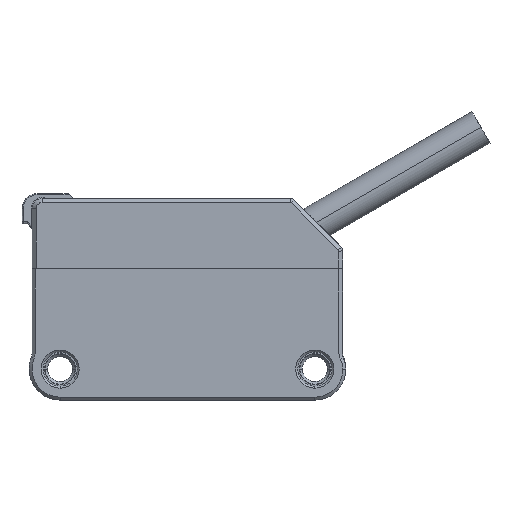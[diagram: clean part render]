
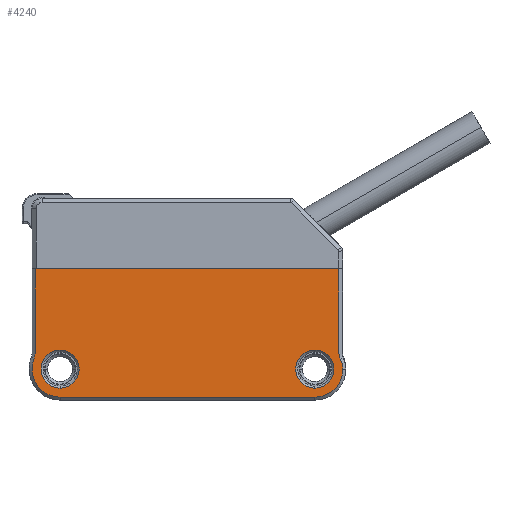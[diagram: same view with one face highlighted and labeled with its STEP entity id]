
A CAD part, front view. The second image highlights one B-rep face of the part: STEP entity #4240.
In plain terms, the highlighted planar face has unit normal (0, -1, 0).
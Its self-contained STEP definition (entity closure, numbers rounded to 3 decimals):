
#932=DIRECTION('',(-1.,0.,0.));
#933=VECTOR('',#932,30.31);
#934=CARTESIAN_POINT('',(27.21,-6.,0.2));
#935=LINE('',#934,#933);
#1050=DIRECTION('',(0.,0.,-1.));
#1051=VECTOR('',#1050,8.461);
#1052=CARTESIAN_POINT('',(-3.1,-6.,0.2));
#1053=LINE('',#1052,#1051);
#1058=CARTESIAN_POINT('',(24.8,-6.,-9.8));
#1059=DIRECTION('',(0.,1.,0.));
#1060=DIRECTION('',(1.,0.,-0.001));
#1061=AXIS2_PLACEMENT_3D('',#1058,#1059,#1060);
#1063=CARTESIAN_POINT('',(-0.6,-6.,-9.8));
#1064=DIRECTION('',(0.,1.,0.));
#1065=DIRECTION('',(0.,0.,-1.));
#1066=AXIS2_PLACEMENT_3D('',#1063,#1064,#1065);
#1068=CARTESIAN_POINT('',(-4.4,-6.,-8.261));
#1069=DIRECTION('',(0.,-1.,0.));
#1070=DIRECTION('',(0.927,0.,-0.375));
#1071=AXIS2_PLACEMENT_3D('',#1068,#1069,#1070);
#1073=CARTESIAN_POINT('',(-0.6,-6.,-9.8));
#1074=DIRECTION('',(0.,-1.,0.));
#1075=DIRECTION('',(0.,0.,-1.));
#1076=AXIS2_PLACEMENT_3D('',#1073,#1074,#1075);
#1078=CARTESIAN_POINT('',(-0.6,-6.,-9.8));
#1079=DIRECTION('',(0.,-1.,0.));
#1080=DIRECTION('',(0.,0.,1.));
#1081=AXIS2_PLACEMENT_3D('',#1078,#1079,#1080);
#1083=CARTESIAN_POINT('',(24.8,-6.,-9.8));
#1084=DIRECTION('',(0.,-1.,0.));
#1085=DIRECTION('',(0.,0.,-1.));
#1086=AXIS2_PLACEMENT_3D('',#1083,#1084,#1085);
#1088=CARTESIAN_POINT('',(24.8,-6.,-9.8));
#1089=DIRECTION('',(0.,-1.,0.));
#1090=DIRECTION('',(0.,0.,1.));
#1091=AXIS2_PLACEMENT_3D('',#1088,#1089,#1090);
#1097=DIRECTION('',(0.,0.,1.));
#1098=VECTOR('',#1097,8.449);
#1099=CARTESIAN_POINT('',(27.21,-6.,
-8.249));
#1100=LINE('',#1099,#1098);
#1279=DIRECTION('',(1.,0.,0.));
#1280=VECTOR('',#1279,25.4);
#1281=CARTESIAN_POINT('',(-0.6,-6.,
-12.6));
#1282=LINE('',#1281,#1280);
#1292=CARTESIAN_POINT('',(27.6,-6.,
-9.804));
#1293=CARTESIAN_POINT('',(27.597,-6.,
-9.692));
#1294=CARTESIAN_POINT('',(27.574,-6.,
-9.472));
#1295=CARTESIAN_POINT('',(27.491,-6.,
-9.147));
#1296=CARTESIAN_POINT('',(27.405,-6.,
-8.943));
#1297=CARTESIAN_POINT('',(27.354,-6.,
-8.844));
#1303=CARTESIAN_POINT('',(27.354,-6.,
-8.844));
#1304=CARTESIAN_POINT('',(27.323,-6.,
-8.782));
#1305=CARTESIAN_POINT('',(27.27,-6.,
-8.656));
#1306=CARTESIAN_POINT('',(27.221,-6.,
-8.454));
#1307=CARTESIAN_POINT('',(27.21,-6.,
-8.318));
#1308=CARTESIAN_POINT('',(27.21,-6.,
-8.249));
#2326=CARTESIAN_POINT('',(27.6,-6.,
-9.804));
#2327=CARTESIAN_POINT('',(24.8,-6.,-12.6));
#2328=VERTEX_POINT('',#2326);
#2329=VERTEX_POINT('',#2327);
#2330=CARTESIAN_POINT('',(27.21,-6.,
-8.249));
#2331=CARTESIAN_POINT('',(27.21,-6.,0.2));
#2332=VERTEX_POINT('',#2330);
#2333=VERTEX_POINT('',#2331);
#2334=VERTEX_POINT('',#1303);
#2335=CARTESIAN_POINT('',(-0.6,-6.,
-12.6));
#2336=VERTEX_POINT('',#2335);
#2337=CARTESIAN_POINT('',(-3.195,-6.,
-8.749));
#2338=VERTEX_POINT('',#2337);
#2339=CARTESIAN_POINT('',(-3.1,-6.,-8.261));
#2340=VERTEX_POINT('',#2339);
#2341=CARTESIAN_POINT('',(-3.1,-6.,0.2));
#2342=VERTEX_POINT('',#2341);
#2343=CARTESIAN_POINT('',(-0.6,-6.,-11.7));
#2344=CARTESIAN_POINT('',(-0.6,-6.,-7.9));
#2345=VERTEX_POINT('',#2343);
#2346=VERTEX_POINT('',#2344);
#2347=CARTESIAN_POINT('',(24.8,-6.,-11.7));
#2348=CARTESIAN_POINT('',(24.8,-6.,-7.9));
#2349=VERTEX_POINT('',#2347);
#2350=VERTEX_POINT('',#2348);
#4205=CARTESIAN_POINT('',(12.1,-6.,-6.2));
#4206=DIRECTION('',(0.,1.,0.));
#4207=DIRECTION('',(1.,0.,0.));
#4208=AXIS2_PLACEMENT_3D('',#4205,#4206,#4207);
#4209=PLANE('',#4208);
#4211=ORIENTED_EDGE('',*,*,#4210,.F.);
#4213=ORIENTED_EDGE('',*,*,#4212,.F.);
#4215=ORIENTED_EDGE('',*,*,#4214,.F.);
#4217=ORIENTED_EDGE('',*,*,#4216,.T.);
#4219=ORIENTED_EDGE('',*,*,#4218,.F.);
#4221=ORIENTED_EDGE('',*,*,#4220,.T.);
#4223=ORIENTED_EDGE('',*,*,#4222,.T.);
#4224=ORIENTED_EDGE('',*,*,#4197,.F.);
#4225=ORIENTED_EDGE('',*,*,#4079,.F.);
#4226=EDGE_LOOP('',(#4211,#4213,#4215,#4217,#4219,#4221,#4223,#4224,#4225));
#4227=FACE_OUTER_BOUND('',#4226,.F.);
#4229=ORIENTED_EDGE('',*,*,#4228,.T.);
#4231=ORIENTED_EDGE('',*,*,#4230,.T.);
#4232=EDGE_LOOP('',(#4229,#4231));
#4233=FACE_BOUND('',#4232,.F.);
#4235=ORIENTED_EDGE('',*,*,#4234,.T.);
#4237=ORIENTED_EDGE('',*,*,#4236,.T.);
#4238=EDGE_LOOP('',(#4235,#4237));
#4239=FACE_BOUND('',#4238,.F.);
#4240=ADVANCED_FACE('',(#4227,#4233,#4239),#4209,.F.);
#1062=CIRCLE('',#1061,2.8);
#1067=CIRCLE('',#1066,2.8);
#1072=CIRCLE('',#1071,1.3);
#1077=CIRCLE('',#1076,1.9);
#1082=CIRCLE('',#1081,1.9);
#1087=CIRCLE('',#1086,1.9);
#1092=CIRCLE('',#1091,1.9);
#1298=B_SPLINE_CURVE_WITH_KNOTS('',3,(#1292,#1293,#1294,#1295,#1296,#1297),
.UNSPECIFIED.,.F.,.F.,(4,1,1,4),(0.,0.333,0.667,1.),
.UNSPECIFIED.);
#1309=B_SPLINE_CURVE_WITH_KNOTS('',3,(#1303,#1304,#1305,#1306,#1307,#1308),
.UNSPECIFIED.,.F.,.F.,(4,1,1,4),(0.,0.333,0.667,1.),
.UNSPECIFIED.);
#4079=EDGE_CURVE('',#2333,#2342,#935,.T.);
#4197=EDGE_CURVE('',#2342,#2340,#1053,.T.);
#4210=EDGE_CURVE('',#2332,#2333,#1100,.T.);
#4212=EDGE_CURVE('',#2334,#2332,#1309,.T.);
#4214=EDGE_CURVE('',#2328,#2334,#1298,.T.);
#4216=EDGE_CURVE('',#2328,#2329,#1062,.T.);
#4218=EDGE_CURVE('',#2336,#2329,#1282,.T.);
#4220=EDGE_CURVE('',#2336,#2338,#1067,.T.);
#4222=EDGE_CURVE('',#2338,#2340,#1072,.T.);
#4228=EDGE_CURVE('',#2345,#2346,#1077,.T.);
#4230=EDGE_CURVE('',#2346,#2345,#1082,.T.);
#4234=EDGE_CURVE('',#2349,#2350,#1087,.T.);
#4236=EDGE_CURVE('',#2350,#2349,#1092,.T.);
